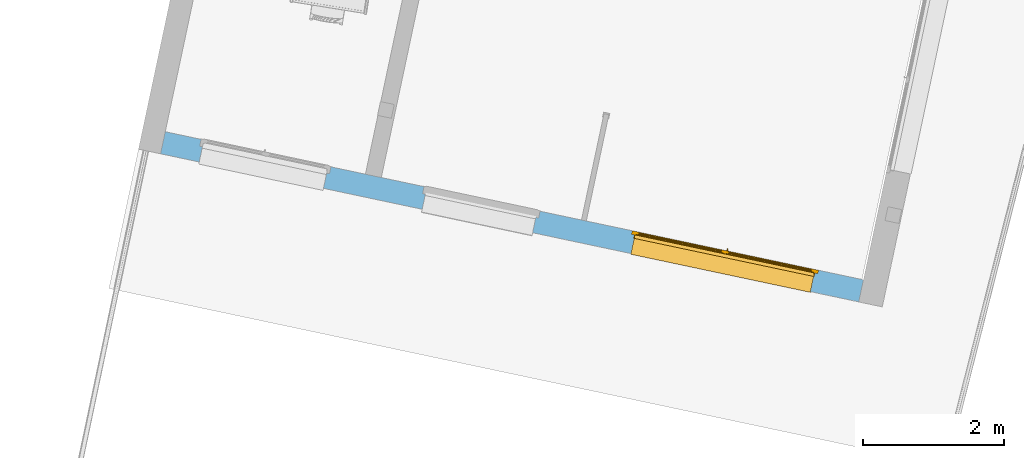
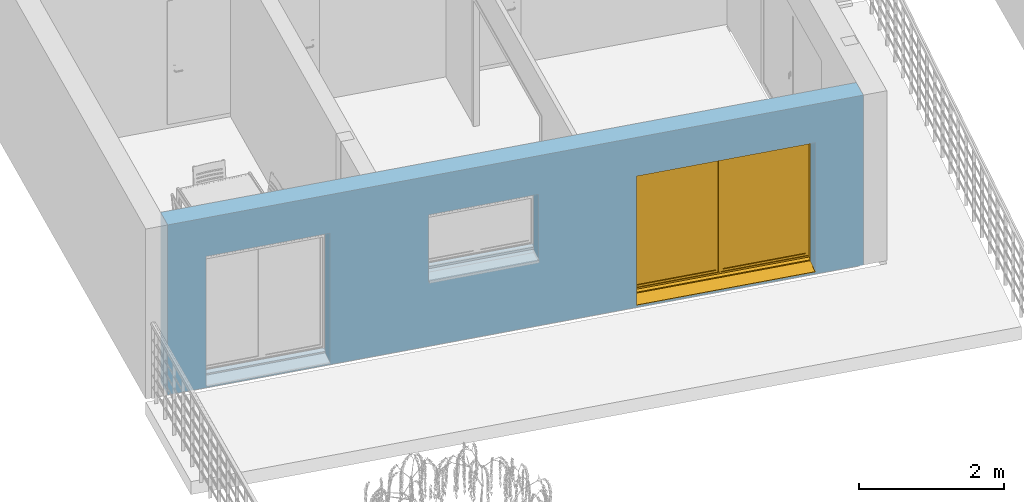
"""IFC2X3 building model written with IfcOpenShell, lengths in metres."""

import ifcopenshell
import ifcopenshell.guid

model = None  # the IFC model being written
_history = None  # IfcOwnerHistory: only IFC2X3 demands one
_inside = {}  # id of a spatial element -> (the spatial element, [elements in it])
_under = {}  # id of a project, library or spatial element -> (it, [spatial elements below it])
_declared = {}  # id of a project -> (the project, [libraries it declares])
_typed = {}  # id of a type object -> (the type object, [elements of that type])
_made_of = {}  # id of a material, layer set ... -> (it, [elements and type objects made of it])


def new_model(schema):
    """Start an empty IFC model of exactly this schema.

    Asked for "IFC4X3", IfcOpenShell would pick the latest addendum, in which some entities
    have other attributes; the version numbers below select the first issue.
    IFC2X3 requires an IfcOwnerHistory on every rooted entity: one is made here for all.
    """
    global model, _history
    if schema == "IFC4X3":
        model = ifcopenshell.file(schema_version=(4, 3, 0, 0))
    else:
        model = ifcopenshell.file(schema=schema)
    _inside.clear()
    _under.clear()
    _declared.clear()
    _typed.clear()
    _made_of.clear()
    _history = None
    if model.schema == "IFC2X3":
        org = make("IfcOrganization", Name="unknown")
        user = make(
            "IfcPersonAndOrganization",
            ThePerson=make("IfcPerson", FamilyName="unknown"),
            TheOrganization=org,
        )
        app = make(
            "IfcApplication",
            ApplicationDeveloper=org,
            Version="unknown",
            ApplicationFullName="unknown",
            ApplicationIdentifier="unknown",
        )
        _history = make(
            "IfcOwnerHistory",
            OwningUser=user,
            OwningApplication=app,
            ChangeAction="ADDED",
            CreationDate=0,
        )
    return model


def make(cls, **values):
    """One entity of the class cls with the attributes given. An attribute that is None is left unset."""
    return model.create_entity(
        cls, **{name: value for name, value in values.items() if value is not None}
    )


def entity(cls, *values):
    """Any entity or typed value of the class cls, its attributes in the order of the schema. None: left unset."""
    e = model.create_entity(cls)
    for i, value in enumerate(values):
        if value is not None:
            e[i] = value
    return e


def rooted(cls, **values):
    """An entity with a GlobalId (a new one), such as an element, a storey or a relation."""
    return make(cls, GlobalId=ifcopenshell.guid.new(), OwnerHistory=_history, **values)


def si_unit(unit_type, name, prefix=None):
    """IfcSIUnit, for example si_unit("LENGTHUNIT", "METRE", prefix="MILLI")."""
    return make("IfcSIUnit", UnitType=unit_type, Prefix=prefix, Name=name)


def converted_unit(unit_type, name, factor, base, dimensions=None, offset=None):
    """IfcConversionBasedUnit, such as the inch: factor (a typed value) times the base unit."""
    return make(
        "IfcConversionBasedUnit"
        if offset is None
        else "IfcConversionBasedUnitWithOffset",
        ConversionOffset=offset,
        Dimensions=None
        if dimensions is None
        else entity("IfcDimensionalExponents", *dimensions),
        UnitType=unit_type,
        Name=name,
        ConversionFactor=make(
            "IfcMeasureWithUnit", ValueComponent=factor, UnitComponent=base
        ),
    )


def derived_unit(unit_type, elements):
    """IfcDerivedUnit: a product of units, each with its exponent."""
    return make(
        "IfcDerivedUnit",
        Elements=[
            make("IfcDerivedUnitElement", Unit=unit, Exponent=power)
            for unit, power in elements
        ],
        UnitType=unit_type,
    )


def assignment(units):
    """IfcUnitAssignment: the units of a project."""
    return None if units is None else make("IfcUnitAssignment", Units=units)


def point(xyz):
    """IfcCartesianPoint."""
    return None if xyz is None else make("IfcCartesianPoint", Coordinates=xyz)


def direction(xyz):
    """IfcDirection."""
    return None if xyz is None else make("IfcDirection", DirectionRatios=xyz)


def frame(location, z_axis=None, x_axis=None):
    """IfcAxis2Placement3D, a coordinate frame: its origin and axes. An axis left out is left unset."""
    return make(
        "IfcAxis2Placement3D",
        Location=point(location),
        Axis=direction(z_axis),
        RefDirection=direction(x_axis),
    )


def frame_2d(location, x_axis=None):
    """IfcAxis2Placement2D, a coordinate frame in the plane: its origin and x axis."""
    return make(
        "IfcAxis2Placement2D", Location=point(location), RefDirection=direction(x_axis)
    )


def origin():
    """The frame at (0, 0, 0) with its axes left unset."""
    return frame((0.0, 0.0, 0.0))


def place(relative_to, where):
    """IfcLocalPlacement: puts the frame where relative to a parent placement (None: the world)."""
    return make(
        "IfcLocalPlacement", PlacementRelTo=relative_to, RelativePlacement=where
    )


def context(
    kind, dimensions, precision=None, world=None, true_north=None, identifier=None
):
    """IfcGeometricRepresentationContext, for example the 3D "Model" context."""
    return make(
        "IfcGeometricRepresentationContext",
        ContextIdentifier=identifier,
        ContextType=kind,
        CoordinateSpaceDimension=dimensions,
        Precision=precision,
        WorldCoordinateSystem=world,
        TrueNorth=true_north,
    )


def subcontext(parent, identifier, kind, view, scale=None):
    """IfcGeometricRepresentationSubContext, for example "Body" below "Model"."""
    return make(
        "IfcGeometricRepresentationSubContext",
        ContextIdentifier=identifier,
        ContextType=kind,
        ParentContext=parent,
        TargetScale=scale,
        TargetView=view,
    )


def project(units=None, contexts=None):
    """IfcProject with its units and contexts."""
    return rooted(
        "IfcProject",
        Name="project",
        RepresentationContexts=contexts,
        UnitsInContext=assignment(units),
    )


def spatial(cls, under=None, at=None, **own):
    """A site, building, storey or space (cls), placed at a placement, below another one or the project."""
    s = rooted(cls, ObjectPlacement=at, **own)
    if under is not None:
        _under.setdefault(under.id(), (under, []))[1].append(s)
    return s


def profile(cls, at=None, kind="AREA", **sizes):
    """A parametric profile (cls). Its sizes go by their IFC names, for example OverallWidth=200.0."""
    return make(cls, ProfileType=kind, Position=at, **sizes)


def rectangle(**sizes):
    """IfcRectangleProfileDef."""
    return profile("IfcRectangleProfileDef", **sizes)


def extrude(swept, where, along, depth):
    """IfcExtrudedAreaSolid: the profile swept, set in the frame where, extruded along a direction by depth."""
    return make(
        "IfcExtrudedAreaSolid",
        SweptArea=swept,
        Position=where,
        ExtrudedDirection=direction(along),
        Depth=depth,
    )


def faces_of(points, faces, orient=None, outer=None):
    """IfcFace entities. A face is a list of loops; a loop is a list of indices into points, from 0.

    orient and outer hold one flag for each loop. By default every Orientation is true, the
    first loop of a face is its IfcFaceOuterBound and the others are IfcFaceBound.
    """
    made = []
    for i, loops in enumerate(faces):
        bounds = []
        for j, loop in enumerate(loops):
            is_outer = j == 0 if outer is None else outer[i][j]
            bounds.append(
                make(
                    "IfcFaceOuterBound" if is_outer else "IfcFaceBound",
                    Bound=make("IfcPolyLoop", Polygon=[points[k] for k in loop]),
                    Orientation=True if orient is None else orient[i][j],
                )
            )
        made.append(make("IfcFace", Bounds=bounds))
    return made


def faceted_brep(points, faces, orient=None, outer=None, voids=None):
    """IfcFacetedBrep: a solid bounded by flat faces; with voids (closed shells), ...WithVoids."""
    shared = [point(p) for p in points]
    hull = make("IfcClosedShell", CfsFaces=faces_of(shared, faces, orient, outer))
    if voids is None:
        return make("IfcFacetedBrep", Outer=hull)
    return make(
        "IfcFacetedBrepWithVoids",
        Outer=hull,
        Voids=[
            make(cls, CfsFaces=faces_of(shared, fs, o, b)) for cls, fs, o, b in voids
        ],
    )


def shape(context_of_items, identifier, shape_type, items):
    """IfcShapeRepresentation: the items that make up one representation, for example the "Body"."""
    return make(
        "IfcShapeRepresentation",
        ContextOfItems=context_of_items,
        RepresentationIdentifier=identifier,
        RepresentationType=shape_type,
        Items=items,
    )


def source(mapping_origin, context_of_items, identifier, shape_type, items):
    """IfcRepresentationMap: a shape defined once, which mapped items show again and again."""
    return make(
        "IfcRepresentationMap",
        MappingOrigin=mapping_origin,
        MappedRepresentation=shape(context_of_items, identifier, shape_type, items),
    )


def transform(
    local_origin,
    x_axis=None,
    y_axis=None,
    z_axis=None,
    scale=None,
    scale2=None,
    scale3=None,
    uniform=True,
):
    """IfcCartesianTransformationOperator3D, or its non-uniform kind. x_axis, y_axis, z_axis: its Axis1, 2, 3."""
    if uniform:
        return make(
            "IfcCartesianTransformationOperator3D",
            Axis1=direction(x_axis),
            Axis2=direction(y_axis),
            LocalOrigin=point(local_origin),
            Scale=scale,
            Axis3=direction(z_axis),
        )
    return make(
        "IfcCartesianTransformationOperator3DnonUniform",
        Axis1=direction(x_axis),
        Axis2=direction(y_axis),
        LocalOrigin=point(local_origin),
        Scale=scale,
        Axis3=direction(z_axis),
        Scale2=scale2,
        Scale3=scale3,
    )


def mapped(mapping_source, mapping_target):
    """IfcMappedItem: shows the shape of a source again, moved by a transform."""
    return make(
        "IfcMappedItem", MappingSource=mapping_source, MappingTarget=mapping_target
    )


def material(Name=None, Category=None):
    """IfcMaterial."""
    return make("IfcMaterial", Name=Name, Category=Category)


def material_list(materials):
    """IfcMaterialList."""
    return make("IfcMaterialList", Materials=materials)


def layer(
    of_material, thickness, ventilated=None, Name=None, Category=None, Priority=None
):
    """IfcMaterialLayer: one layer of a wall or slab, of a material (None: an air gap)."""
    return make(
        "IfcMaterialLayer",
        Material=of_material,
        LayerThickness=thickness,
        IsVentilated=ventilated,
        Name=Name,
        Category=Category,
        Priority=Priority,
    )


def layer_set(layers, Name=None):
    """IfcMaterialLayerSet."""
    return make("IfcMaterialLayerSet", MaterialLayers=layers, LayerSetName=Name)


def layer_usage(for_layer_set, set_direction, sense, offset, extent=None):
    """IfcMaterialLayerSetUsage: how a layer set lies in its element."""
    return make(
        "IfcMaterialLayerSetUsage",
        ForLayerSet=for_layer_set,
        LayerSetDirection=set_direction,
        DirectionSense=sense,
        OffsetFromReferenceLine=offset,
        ReferenceExtent=extent,
    )


def made_of(thing, what):
    """Note that an element or type object is made of a material, layer set ...; save() writes the relation."""
    if what is not None:
        _made_of.setdefault(what.id(), (what, []))[1].append(thing)
    return thing


def type_object(cls, material=None, **own):
    """A type object (cls), such as IfcWallType, which elements share."""
    return made_of(rooted(cls, **own), material)


def type_shapes(of_type, sources):
    """Give a type object the sources (RepresentationMaps) that its elements show as mapped items."""
    of_type.RepresentationMaps = sources


def element(
    cls,
    number,
    at=None,
    inside=None,
    cuts=None,
    type_object=None,
    material=None,
    context=None,
    identifier="Body",
    shape_type=None,
    held_by="IfcProductDefinitionShape",
    body=None,
    shapes=None,
    **own,
):
    """One element of the class cls, such as IfcWall. Its Tag is "e" and its number.

    at: its placement. inside: the storey or other place that contains it. cuts: it is an
    opening in that element (IfcRelVoidsElement). A single representation is given by context,
    identifier, shape_type and body (its items); several are given by shapes. held_by: the class
    of the entity that holds the representations. save() writes the other relations.
    """
    e = rooted(cls, Tag="e%d" % number, ObjectPlacement=at, **own)
    if body is not None:
        shapes = [shape(context, identifier, shape_type, body)]
    if shapes is not None:
        e.Representation = make(held_by, Representations=shapes)
    if inside is not None:
        _inside.setdefault(inside.id(), (inside, []))[1].append(e)
    if cuts is not None:
        rooted(
            "IfcRelVoidsElement", RelatingBuildingElement=cuts, RelatedOpeningElement=e
        )
    if type_object is not None:
        _typed.setdefault(type_object.id(), (type_object, []))[1].append(e)
    return made_of(e, material)


def fill(opening, filler):
    """IfcRelFillsElement: the door or window that sits in an opening."""
    return rooted(
        "IfcRelFillsElement",
        RelatingOpeningElement=opening,
        RelatedBuildingElement=filler,
    )


def aggregate(whole, parts):
    """IfcRelAggregates: a whole, such as a stair, and the parts it consists of."""
    return rooted("IfcRelAggregates", RelatingObject=whole, RelatedObjects=parts)


def save(model, path):
    """Write the relations noted so far, then the file.

    IfcRelAggregates (storeys below a building ...), IfcRelContainedInSpatialStructure (elements
    in a storey), IfcRelDefinesByType, IfcRelAssociatesMaterial and IfcRelDeclares: one each for
    every whole, place, type object, material and project.
    """
    for whole, parts in _under.values():
        aggregate(whole, parts)
    for where, things in _inside.values():
        rooted(
            "IfcRelContainedInSpatialStructure",
            RelatedElements=things,
            RelatingStructure=where,
        )
    for kind, things in _typed.values():
        rooted("IfcRelDefinesByType", RelatedObjects=things, RelatingType=kind)
    for what, things in _made_of.values():
        rooted("IfcRelAssociatesMaterial", RelatedObjects=things, RelatingMaterial=what)
    for by, libraries in _declared.values():
        rooted("IfcRelDeclares", RelatingContext=by, RelatedDefinitions=libraries)
    model.write(path)


model = new_model("IFC2X3")

# Units and contexts
model_context = context("Model", 3, precision=1e-05, world=origin(), true_north=direction((6.12303176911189e-17, 1.0)))
body_context = subcontext(model_context, "Body", "Model", "MODEL_VIEW")
ifc_project = project(units=[si_unit("LENGTHUNIT", "METRE"), si_unit("AREAUNIT", "SQUARE_METRE"), si_unit("VOLUMEUNIT", "CUBIC_METRE"), converted_unit("PLANEANGLEUNIT", "DEGREE", entity("IfcRatioMeasure", 0.0174532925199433), si_unit("PLANEANGLEUNIT", "RADIAN"), dimensions=[0, 0, 0, 0, 0, 0, 0]), si_unit("MASSUNIT", "GRAM", prefix="KILO"), derived_unit("MASSDENSITYUNIT", [(si_unit("MASSUNIT", "GRAM", prefix="KILO"), 1), (si_unit("LENGTHUNIT", "METRE"), -3)]), si_unit("TIMEUNIT", "SECOND"), si_unit("FREQUENCYUNIT", "HERTZ"), si_unit("THERMODYNAMICTEMPERATUREUNIT", "DEGREE_CELSIUS"), derived_unit("THERMALTRANSMITTANCEUNIT", [(si_unit("MASSUNIT", "GRAM", prefix="KILO"), 1), (si_unit("THERMODYNAMICTEMPERATUREUNIT", "KELVIN"), -1), (si_unit("TIMEUNIT", "SECOND"), -3)]), derived_unit("VOLUMETRICFLOWRATEUNIT", [(si_unit("LENGTHUNIT", "METRE"), 3), (si_unit("TIMEUNIT", "SECOND"), -1)]), si_unit("ELECTRICCURRENTUNIT", "AMPERE"), si_unit("ELECTRICVOLTAGEUNIT", "VOLT"), si_unit("POWERUNIT", "WATT"), si_unit("FORCEUNIT", "NEWTON", prefix="KILO"), si_unit("ILLUMINANCEUNIT", "LUX"), si_unit("LUMINOUSFLUXUNIT", "LUMEN"), si_unit("LUMINOUSINTENSITYUNIT", "CANDELA"), derived_unit("USERDEFINED", [(si_unit("MASSUNIT", "GRAM", prefix="KILO"), -1), (si_unit("LENGTHUNIT", "METRE"), -2), (si_unit("TIMEUNIT", "SECOND"), 3), (si_unit("LUMINOUSFLUXUNIT", "LUMEN"), 1)]), derived_unit("LINEARVELOCITYUNIT", [(si_unit("LENGTHUNIT", "METRE"), 1), (si_unit("TIMEUNIT", "SECOND"), -1)]), si_unit("PRESSUREUNIT", "PASCAL"), derived_unit("USERDEFINED", [(si_unit("LENGTHUNIT", "METRE"), -2), (si_unit("MASSUNIT", "GRAM", prefix="KILO"), 1), (si_unit("TIMEUNIT", "SECOND"), -2)])], contexts=[model_context])

# Site, building, storey
site_placement = place(None, origin())
site = spatial("IfcSite", under=ifc_project, at=site_placement, Name="Default", CompositionType="ELEMENT")
building_placement = place(site_placement, origin())
building = spatial("IfcBuilding", under=site, at=building_placement, CompositionType="ELEMENT")
storey_1_placement = place(building_placement, frame((0.0, 0.0, -0.0686871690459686)))
storey_1 = spatial("IfcBuildingStorey", under=building, at=storey_1_placement, Name="RDC", CompositionType="ELEMENT", Elevation=-0.0686871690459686)

# Wall, openings
ifc_material_1 = material(Name="Enduit blanc cassé2")
ifc_layer_1 = layer(ifc_material_1, 0.02)
ifc_material_2 = material(Name="Parpaing")
ifc_layer_2 = layer(ifc_material_2, 0.2)
ifc_material_3 = material(Name="Isolant")
ifc_layer_3 = layer(ifc_material_3, 0.1)
ifc_layer_set = layer_set([ifc_layer_1, ifc_layer_2, ifc_layer_3], Name="Mur de base:Ext. Parpaing 20 + Isolant 10 enduit blanc cassé")
ifc_layer_usage = layer_usage(ifc_layer_set, "AXIS2", "POSITIVE", -0.16)
wall_type = type_object("IfcWallType", Name="Mur de base:Ext. Parpaing 20 + Isolant 10 enduit blanc cassé", PredefinedType="STANDARD", material=ifc_layer_set)
wall_placement = place(storey_1_placement, frame((-22.068308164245, 75.1460421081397, 0.0), z_axis=(0.0, 0.0, 1.0), x_axis=(0.978238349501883, -0.207484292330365, 0.0)))
wall = element("IfcWallStandardCase", 1, at=wall_placement, inside=storey_1, type_object=wall_type, material=ifc_layer_usage, Name="Mur de base:Ext. Parpaing 20 + Isolant 10 enduit blanc cassé", ObjectType="Mur de base:Ext. Parpaing 20 + Isolant 10 enduit blanc cassé", context=body_context, shape_type="SweptSolid", body=[
    extrude(rectangle(XDim=10.1152120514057, YDim=0.319999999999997, at=frame_2d((5.05760602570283, -1.1518563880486e-15), x_axis=(-1.0, 0.0))), origin(), (0.0, 0.0, 1.0), 2.86868716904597),
])
opening_1_placement = place(wall_placement, frame((0.637489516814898, -0.865344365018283, 0.0348073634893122), z_axis=(0.0, 0.0, 1.0), x_axis=(0.978238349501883, 0.207484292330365, 0.0)))
element("IfcOpeningElement", 2, at=opening_1_placement, cuts=wall, Name="Mur de base:Ext. Parpaing 20 + Isolant 10 enduit blanc cassé", ObjectType="Opening", context=body_context, shape_type="Brep", body=[
    faceted_brep([(0.20748429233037, 1.35171007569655, 2.18387980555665), (1.96831332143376, 0.978238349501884, 2.18387980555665), (1.96831332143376, 0.978238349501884, 0.0338798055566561), (0.20748429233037, 1.35171007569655, 0.0338798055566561), (0.0, 0.373471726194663, 2.18387980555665), (0.0, 0.373471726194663, 0.0338798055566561), (1.76082902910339, 0.0, 0.0338798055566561), (1.76082902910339, 0.0, 2.18387980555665), (0.139636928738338, 1.03182613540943, 2.18387980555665), (1.90046595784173, 0.658354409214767, 2.18387980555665), (1.90046595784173, 0.658354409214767, 0.0338798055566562), (1.9395954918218, 0.650055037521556, 0.0338798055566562), (1.91614976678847, 0.53951410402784, 0.0338798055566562), (1.87702023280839, 0.54781347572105, 0.0338798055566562), (1.87743520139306, 0.549769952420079, 0.0338798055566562), (0.116606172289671, 0.923241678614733, 0.0338798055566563), (0.116191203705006, 0.921285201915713, 0.0338798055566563), (0.0770616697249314, 0.929584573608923, 0.0338798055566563), (0.100507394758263, 1.04012550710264, 0.0338798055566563), (0.139636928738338, 1.03182613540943, 0.0338798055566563), (0.100507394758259, 1.04012550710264, 2.22387980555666), (1.9395954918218, 0.650055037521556, 2.22387980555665), (1.91614976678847, 0.53951410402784, 2.22387980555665), (1.92593215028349, 0.537439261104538, 2.22387980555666), (1.92593215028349, 0.537439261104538, 2.40387980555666), (0.0672792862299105, 0.931659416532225, 2.40387980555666), (0.0672792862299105, 0.931659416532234, 2.22387980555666), (0.0770616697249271, 0.929584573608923, 2.22387980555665), (0.116191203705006, 0.921285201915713, 2.18387980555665), (1.87702023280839, 0.54781347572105, 2.18387980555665), (1.95352756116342, 0.667544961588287, 2.40387980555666), (1.95352756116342, 0.667544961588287, 2.22387980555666), (0.0948746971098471, 1.06176511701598, 2.40387980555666), (0.0948746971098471, 1.06176511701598, 2.22387980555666), (1.87743520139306, 0.549769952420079, 0.0220471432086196), (0.116606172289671, 0.923241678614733, 0.0220471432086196), (1.8251491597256, 0.303253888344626, 0.0338798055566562), (0.0643201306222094, 0.67672561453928, 0.0338798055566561), (0.0643201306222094, 0.67672561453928, 0.0), (1.8251491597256, 0.303253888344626, 0.0)], [[[0, 1, 2, 3]], [[4, 5, 6, 7]], [[0, 8, 9, 1]], [[1, 9, 10, 2]], [[2, 10, 11, 12, 13, 14, 15, 16, 17, 18, 19, 3]], [[3, 19, 8, 0]], [[10, 9, 8, 19, 18, 20, 21, 11]], [[11, 21, 22, 12]], [[12, 22, 23, 24, 25, 26, 27, 17, 16, 28, 29, 13]], [[18, 17, 27, 20]], [[30, 24, 23, 31]], [[32, 33, 26, 25]], [[30, 32, 25, 24]], [[23, 22, 21, 20, 27, 26, 33, 31]], [[31, 33, 32, 30]], [[34, 35, 15, 14]], [[36, 37, 38, 39]], [[39, 38, 35, 34]], [[4, 28, 16, 15, 35, 38, 37, 5]], [[5, 37, 36, 6]], [[6, 36, 39, 34, 14, 13, 29, 7]], [[7, 29, 28, 4]]]),
])
opening_2_placement = place(wall_placement, frame((3.85887957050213, -0.824750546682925, 1.08868716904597), z_axis=(0.0, 0.0, 1.0), x_axis=(0.978238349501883, 0.207484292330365, 0.0)))
element("IfcOpeningElement", 3, at=opening_2_placement, cuts=wall, Name="Mur de base:Ext. Parpaing 20 + Isolant 10 enduit blanc cassé", ObjectType="Opening", context=body_context, shape_type="Brep", body=[
    faceted_brep([(0.207484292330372, 1.31021321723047, 1.13), (1.77266565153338, 0.978238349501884, 1.13), (1.77266565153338, 0.978238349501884, 0.0799999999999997), (0.207484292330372, 1.31021321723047, 0.0799999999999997), (0.0, 0.331974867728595, 1.13), (0.0, 0.331974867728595, 0.0799999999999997), (1.56518135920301, 0.0, 0.0799999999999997), (1.56518135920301, 0.0, 1.13), (0.13963692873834, 0.990329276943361, 1.13), (1.70481828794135, 0.658354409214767, 1.13), (1.70481828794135, 0.658354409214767, 0.0799999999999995), (1.74394782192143, 0.650055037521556, 0.0799999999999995), (1.72050209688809, 0.53951410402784, 0.0799999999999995), (1.68137256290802, 0.54781347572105, 0.0799999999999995), (1.68863451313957, 0.582051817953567, 0.0799999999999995), (0.123453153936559, 0.914026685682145, 0.0799999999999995), (0.116191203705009, 0.879788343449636, 0.0799999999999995), (0.0770616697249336, 0.888087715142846, 0.0799999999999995), (0.100507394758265, 0.998628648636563, 0.0799999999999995), (0.13963692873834, 0.990329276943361, 0.0799999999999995), (0.100507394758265, 0.998628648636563, 1.17), (1.74394782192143, 0.650055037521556, 1.16999999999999), (1.72050209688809, 0.53951410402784, 1.16999999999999), (1.73028448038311, 0.537439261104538, 1.17), (1.73028448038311, 0.537439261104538, 1.35), (0.0672792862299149, 0.890162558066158, 1.35), (0.0672792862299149, 0.890162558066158, 1.17), (0.0770616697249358, 0.888087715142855, 1.16999999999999), (0.116191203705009, 0.879788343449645, 1.13), (1.68137256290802, 0.54781347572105, 1.13), (1.75787989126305, 0.667544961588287, 1.35), (1.75787989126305, 0.667544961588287, 1.17), (0.0948746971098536, 1.02026825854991, 1.35), (0.0948746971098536, 1.02026825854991, 1.17), (1.68137256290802, 0.54781347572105, 0.0), (0.116191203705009, 0.879788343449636, 0.0), (0.123453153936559, 0.914026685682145, 0.0349999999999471), (1.68863451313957, 0.582051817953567, 0.0349999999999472), (1.62638922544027, 0.288580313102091, 0.0799999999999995), (0.0612078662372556, 0.620555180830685, 0.0799999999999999), (0.0612078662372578, 0.620555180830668, 0.0), (1.62638922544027, 0.288580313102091, 0.0)], [[[0, 1, 2, 3]], [[4, 5, 6, 7]], [[0, 8, 9, 1]], [[1, 9, 10, 2]], [[2, 10, 11, 12, 13, 14, 15, 16, 17, 18, 19, 3]], [[3, 19, 8, 0]], [[10, 9, 8, 19, 18, 20, 21, 11]], [[11, 21, 22, 12]], [[12, 22, 23, 24, 25, 26, 27, 17, 16, 28, 29, 13]], [[18, 17, 27, 20]], [[30, 24, 23, 31]], [[32, 33, 26, 25]], [[30, 32, 25, 24]], [[23, 22, 21, 20, 27, 26, 33, 31]], [[31, 33, 32, 30]], [[34, 35, 36, 37]], [[37, 36, 15, 14]], [[38, 39, 40, 41]], [[41, 40, 35, 34]], [[4, 28, 16, 15, 36, 35, 40, 39, 5]], [[5, 39, 38, 6]], [[6, 38, 41, 34, 37, 14, 13, 29, 7]], [[7, 29, 28, 4]]]),
])
opening_3_placement = place(wall_placement, frame((6.92714135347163, -1.02771963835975, 0.0336871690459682), z_axis=(0.0, 0.0, 1.0), x_axis=(0.978238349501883, 0.207484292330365, 0.0)))
opening_3 = element("IfcOpeningElement", 4, at=opening_3_placement, cuts=wall, Name="Mur de base:Ext. Parpaing 20 + Isolant 10 enduit blanc cassé", ObjectType="Opening", context=body_context, shape_type="Brep", body=[
    faceted_brep([(2.75090400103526, 0.978238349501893, 2.185), (0.207484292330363, 1.51769750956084, 2.185), (0.13693963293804, 1.18509647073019, 2.185), (2.68035934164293, 0.645637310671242, 2.185), (0.0880277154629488, 1.19547068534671, 0.0350000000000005), (0.0776535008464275, 1.14655876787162, 0.0350000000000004), (0.0776535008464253, 1.14655876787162, 2.235), (0.0880277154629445, 1.19547068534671, 2.235), (0.116783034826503, 1.1382593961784, 0.0350000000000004), (0.116783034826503, 1.1382593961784, 2.195), (2.67976751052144, 0.594650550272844, 2.195), (2.67976751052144, 0.594650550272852, 0.0350000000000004), (2.71889704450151, 0.586351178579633, 0.0350000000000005), (2.71889704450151, 0.586351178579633, 2.235), (0.120340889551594, 1.10683740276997, 0.0350000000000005), (0.0512480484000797, 0.781081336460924, 0.0), (0.0, 0.539459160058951, 0.0), (0.0, 0.539459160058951, 2.185), (0.116191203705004, 1.08727263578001, 2.185), (0.116191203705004, 1.08727263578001, 0.0350000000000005), (2.75090400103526, 0.978238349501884, 0.0350000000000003), (2.68035934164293, 0.645637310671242, 0.0350000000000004), (0.207484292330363, 1.51769750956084, 0.0350000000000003), (2.72927125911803, 0.635263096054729, 0.0350000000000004), (2.66939329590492, 0.545738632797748, 0.0350000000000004), (2.6596109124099, 0.54781347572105, 0.0350000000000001), (2.66376059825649, 0.567378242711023, 0.0350000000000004), (0.106408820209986, 1.0893474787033, 0.0350000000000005), (0.13693963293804, 1.18509647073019, 0.0350000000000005), (2.54341970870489, 0.0, 0.0), (2.54341970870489, 0.0, 2.185), (2.59466775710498, 0.241622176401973, 0.0), (0.106408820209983, 1.0893474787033, 2.195), (2.6596109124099, 0.54781347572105, 2.185), (2.66939329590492, 0.545738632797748, 2.195), (2.72927125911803, 0.635263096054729, 2.235)], [[[0, 1, 2, 3]], [[4, 5, 6, 7]], [[5, 8, 9, 10, 11, 12, 13, 6]], [[14, 15, 16, 17, 18, 19]], [[20, 0, 3, 21]], [[22, 20, 21, 23, 12, 11, 24, 25, 26, 14, 19, 27, 8, 5, 4, 28]], [[22, 1, 0, 20]], [[17, 16, 29, 30]], [[16, 15, 31, 29]], [[15, 14, 26, 31]], [[8, 27, 32, 9]], [[27, 19, 18, 33, 25, 24, 34, 32]], [[28, 4, 7, 35, 23, 21, 3, 2]], [[7, 6, 13, 35]], [[10, 9, 32, 34]], [[13, 12, 23, 35]], [[11, 10, 34, 24]], [[30, 29, 31, 26, 25, 33]], [[1, 22, 28, 2]], [[17, 30, 33, 18]]]),
])

# Storey
storey_2_placement = place(building_placement, origin())
storey_2 = spatial("IfcBuildingStorey", under=building, at=storey_2_placement, Name="Plan des fondations  Maisons 1 et 2", CompositionType="ELEMENT", Elevation=0.0)

# Window
ifc_material_4 = material(Name="Fenêtre - Poignée")
ifc_material_5 = material(Name="Fenêtre - Appui")
ifc_material_6 = material(Name="PVC Blanc")
ifc_material_7 = material(Name="Fenêtre - Vitrage")
ifc_material_8 = material(Name="Fenêtre - Cadre")
ifc_material_list_1 = material_list([ifc_material_4, ifc_material_5, ifc_material_6, ifc_material_7, ifc_material_8])
ifc_material_list_2 = material_list([ifc_material_4, ifc_material_5, ifc_material_6, ifc_material_7, ifc_material_8])
window_style = type_object("IfcWindowStyle", Name="2.60 X 2.15", ConstructionType="NOTDEFINED", OperationType="DOUBLE_PANEL_VERTICAL", ParameterTakesPrecedence=False, Sizeable=False, material=ifc_material_list_2)
shared_shape = source(origin(), body_context, "Body", "Brep", [
    faceted_brep([(1.31935399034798, 0.653999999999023, 1.12203392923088), (1.33064600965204, 0.653999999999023, 1.12203392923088), (1.33203392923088, 0.653999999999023, 1.12064600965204), (1.33203392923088, 0.653999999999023, 1.10933230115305), (1.33066769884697, 0.653999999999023, 1.10796607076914), (1.31933230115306, 0.653999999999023, 1.10796607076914), (1.31796607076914, 0.653999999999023, 1.10933230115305), (1.31796607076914, 0.653999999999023, 1.12064600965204), (1.31796607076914, 0.641661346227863, 1.12064600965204), (1.31935399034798, 0.641086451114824, 1.12203392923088), (1.31796607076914, 0.646347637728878, 1.10933230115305), (1.31796607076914, 0.639667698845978, 1.10265236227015), (1.31796607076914, 0.639667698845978, 1.02000000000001), (1.31796607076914, 0.628353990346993, 1.02000000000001), (1.31796607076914, 0.628353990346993, 1.10733865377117), (1.31933230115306, 0.646913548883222, 1.10796607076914), (1.33066769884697, 0.646913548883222, 1.10796607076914), (1.33203392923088, 0.646347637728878, 1.10933230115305), (1.33203392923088, 0.641661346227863, 1.12064600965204), (1.33203392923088, 0.628353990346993, 1.10733865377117), (1.33203392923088, 0.628353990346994, 1.02000000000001), (1.33203392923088, 0.639667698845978, 1.02000000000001), (1.33203392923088, 0.639667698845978, 1.10265236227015), (1.33064600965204, 0.641086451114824, 1.12203392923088), (1.31935399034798, 0.626966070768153, 1.10791354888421), (1.31933230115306, 0.641033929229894, 1.10208645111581), (1.33066769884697, 0.641033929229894, 1.10208645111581), (1.33064600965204, 0.626966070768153, 1.10791354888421), (1.31935399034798, 0.626966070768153, 1.02000000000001), (1.31933230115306, 0.641033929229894, 1.02000000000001), (1.33066769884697, 0.641033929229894, 1.02000000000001), (1.33064600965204, 0.626966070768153, 1.02000000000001)], [[[0, 1, 2, 3, 4, 5, 6, 7]], [[7, 8, 9, 0]], [[6, 10, 11, 12, 13, 14, 8, 7]], [[5, 15, 10, 6]], [[4, 16, 15, 5]], [[3, 17, 16, 4]], [[2, 18, 19, 20, 21, 22, 17, 3]], [[1, 23, 18, 2]], [[0, 9, 23, 1]], [[8, 14, 24, 9]], [[15, 25, 11, 10]], [[16, 26, 25, 15]], [[17, 22, 26, 16]], [[23, 27, 19, 18]], [[9, 24, 27, 23]], [[28, 13, 12, 29, 30, 21, 20, 31]], [[14, 13, 28, 24]], [[25, 29, 12, 11]], [[26, 30, 29, 25]], [[22, 21, 30, 26]], [[27, 31, 20, 19]], [[24, 28, 31, 27]]]),
    faceted_brep([(1.318, 0.654000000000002, 1.14), (1.31300000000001, 0.654000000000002, 1.135), (1.31300000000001, 0.654000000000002, 1.06499999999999), (1.318, 0.654000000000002, 1.06), (1.33200000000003, 0.654000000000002, 1.06), (1.33700000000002, 0.654000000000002, 1.06499999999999), (1.33700000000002, 0.654000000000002, 1.135), (1.33200000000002, 0.654000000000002, 1.14), (1.318, 0.660000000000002, 1.14), (1.33200000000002, 0.660000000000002, 1.14), (1.33700000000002, 0.660000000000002, 1.135), (1.33700000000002, 0.660000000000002, 1.06499999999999), (1.33200000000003, 0.660000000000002, 1.06), (1.318, 0.660000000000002, 1.06), (1.31300000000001, 0.660000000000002, 1.06499999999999), (1.31300000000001, 0.660000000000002, 1.135)], [[[0, 1, 2, 3, 4, 5, 6, 7]], [[8, 9, 10, 11, 12, 13, 14, 15]], [[7, 9, 8, 0]], [[6, 10, 9, 7]], [[5, 11, 10, 6]], [[4, 12, 11, 5]], [[3, 13, 12, 4]], [[2, 14, 13, 3]], [[1, 15, 14, 2]], [[0, 8, 15, 1]]]),
    faceted_brep([(0.0500000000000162, 0.990028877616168, 0.0139761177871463), (0.0500000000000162, 0.990028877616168, 0.00500000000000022), (0.0500000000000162, 0.985028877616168, 0.00500000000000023), (0.0500000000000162, 0.985028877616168, 0.00924642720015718), (0.0500000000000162, 0.740000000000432, 0.0349999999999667), (0.0500000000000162, 0.740000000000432, 0.0499999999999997), (0.0500000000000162, 0.745000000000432, 0.0499999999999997), (0.0500000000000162, 0.745000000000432, 0.0397296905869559), (2.65000000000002, 0.990028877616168, 0.0139761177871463), (2.65000000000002, 0.745000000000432, 0.0397296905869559), (2.65000000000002, 0.745000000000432, 0.0499999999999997), (2.65000000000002, 0.740000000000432, 0.0499999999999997), (2.65000000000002, 0.740000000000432, 0.0349999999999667), (2.65000000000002, 0.985028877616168, 0.00924642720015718), (2.65000000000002, 0.985028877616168, 0.00500000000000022), (2.65000000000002, 0.990028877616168, 0.00500000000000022)], [[[0, 1, 2, 3, 4, 5, 6, 7]], [[8, 9, 10, 11, 12, 13, 14, 15]], [[7, 9, 8, 0]], [[6, 10, 9, 7]], [[5, 11, 10, 6]], [[4, 12, 11, 5]], [[3, 13, 12, 4]], [[2, 14, 13, 3]], [[1, 15, 14, 2]], [[0, 8, 15, 1]]]),
    faceted_brep([(2.65000000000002, 0.98900145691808, 0.0180785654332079), (2.65000000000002, 0.986446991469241, 0.0193801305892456), (2.65000000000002, 0.745000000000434, 0.0447572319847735), (2.65000000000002, 0.745000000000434, 0.0397296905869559), (2.65000000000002, 0.99002887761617, 0.0139761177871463), (2.65000000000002, 0.99002887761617, 0.0154020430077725), (2.64500000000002, 0.986446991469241, 0.0193801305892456), (2.64500000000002, 0.98900145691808, 0.0180785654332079), (2.64500000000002, 0.99002887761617, 0.0154020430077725), (2.64500000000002, 0.99002887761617, 0.0139761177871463), (2.64500000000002, 0.745000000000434, 0.0397296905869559), (2.64500000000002, 0.745000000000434, 0.0447572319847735)], [[[0, 1, 2, 3, 4, 5]], [[6, 7, 8, 9, 10, 11]], [[9, 4, 3, 10]], [[10, 3, 2, 11]], [[11, 2, 1, 6]], [[0, 7, 6, 1]], [[5, 8, 7, 0]], [[8, 5, 4, 9]]]),
    faceted_brep([(0.0550000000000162, 0.989001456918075, 0.018078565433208), (0.0550000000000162, 0.986446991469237, 0.0193801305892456), (0.0550000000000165, 0.74500000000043, 0.0447572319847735), (0.0550000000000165, 0.74500000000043, 0.0397296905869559), (0.0550000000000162, 0.990028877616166, 0.0139761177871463), (0.0550000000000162, 0.990028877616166, 0.0154020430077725), (0.0500000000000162, 0.986446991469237, 0.0193801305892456), (0.0500000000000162, 0.989001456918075, 0.018078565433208), (0.0500000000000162, 0.990028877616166, 0.0154020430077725), (0.0500000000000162, 0.990028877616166, 0.0139761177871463), (0.0500000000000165, 0.74500000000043, 0.0397296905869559), (0.0500000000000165, 0.74500000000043, 0.0447572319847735)], [[[0, 1, 2, 3, 4, 5]], [[6, 7, 8, 9, 10, 11]], [[9, 4, 3, 10]], [[10, 3, 2, 11]], [[11, 2, 1, 6]], [[0, 7, 6, 1]], [[5, 8, 7, 0]], [[8, 5, 4, 9]]]),
    faceted_brep([(1.35000000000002, 0.700000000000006, 0.0850000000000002), (2.65000000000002, 0.70000000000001, 0.0850000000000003), (2.65000000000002, 0.660000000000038, 0.0850000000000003), (1.35000000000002, 0.660000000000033, 0.0850000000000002), (1.40000000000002, 0.660000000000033, 0.135), (2.60000000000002, 0.660000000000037, 0.135), (2.60000000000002, 0.70000000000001, 0.135), (1.40000000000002, 0.700000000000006, 0.135), (2.65000000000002, 0.70000000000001, 2.185), (2.65000000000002, 0.660000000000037, 2.185), (2.60000000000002, 0.660000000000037, 2.135), (2.60000000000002, 0.70000000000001, 2.135), (1.35000000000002, 0.700000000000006, 2.185), (1.35000000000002, 0.660000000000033, 2.185), (1.40000000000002, 0.660000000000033, 2.135), (1.40000000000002, 0.700000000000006, 2.135)], [[[0, 1, 2, 3]], [[4, 5, 6, 7]], [[1, 8, 9, 2]], [[5, 10, 11, 6]], [[8, 12, 13, 9]], [[10, 14, 15, 11]], [[12, 0, 3, 13]], [[1, 0, 12, 8], [7, 6, 11, 15]], [[14, 4, 7, 15]], [[3, 2, 9, 13], [5, 4, 14, 10]]]),
    faceted_brep([(2.60000000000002, 0.685999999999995, 2.135), (2.60000000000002, 0.685999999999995, 0.135), (1.40000000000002, 0.685999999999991, 0.135), (1.40000000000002, 0.685999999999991, 2.135), (2.60000000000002, 0.673999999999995, 2.135), (1.40000000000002, 0.673999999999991, 2.135), (1.40000000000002, 0.673999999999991, 0.135), (2.60000000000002, 0.673999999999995, 0.135)], [[[0, 1, 2, 3]], [[4, 5, 6, 7]], [[3, 5, 4, 0]], [[2, 6, 5, 3]], [[1, 7, 6, 2]], [[0, 4, 7, 1]]]),
    faceted_brep([(1.30000000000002, 0.68599999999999, 2.135), (1.30000000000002, 0.67399999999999, 2.135), (1.30000000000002, 0.67399999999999, 0.135000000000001), (1.30000000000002, 0.68599999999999, 0.135000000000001), (0.100000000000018, 0.685999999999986, 2.135), (0.100000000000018, 0.673999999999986, 2.135), (0.100000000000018, 0.685999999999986, 0.135000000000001), (0.100000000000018, 0.673999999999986, 0.135000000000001)], [[[0, 1, 2, 3]], [[4, 5, 1, 0]], [[6, 7, 5, 4]], [[3, 2, 7, 6]], [[2, 1, 5, 7]], [[3, 6, 4, 0]]]),
    faceted_brep([(1.30000000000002, 0.699999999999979, 0.135000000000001), (0.100000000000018, 0.699999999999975, 0.135000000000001), (0.100000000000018, 0.659999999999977, 0.135000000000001), (1.30000000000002, 0.659999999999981, 0.135000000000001), (1.35000000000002, 0.659999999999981, 0.0850000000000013), (0.0500000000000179, 0.659999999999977, 0.0850000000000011), (0.0500000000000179, 0.699999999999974, 0.0850000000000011), (1.35000000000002, 0.699999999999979, 0.0850000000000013), (0.100000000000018, 0.699999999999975, 2.135), (0.100000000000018, 0.659999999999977, 2.135), (0.0500000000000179, 0.659999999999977, 2.185), (0.0500000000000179, 0.699999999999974, 2.185), (1.30000000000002, 0.699999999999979, 2.135), (1.30000000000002, 0.659999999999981, 2.135), (1.35000000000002, 0.659999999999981, 2.185), (1.35000000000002, 0.699999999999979, 2.185)], [[[0, 1, 2, 3]], [[4, 5, 6, 7]], [[1, 8, 9, 2]], [[5, 10, 11, 6]], [[8, 12, 13, 9]], [[10, 14, 15, 11]], [[12, 0, 3, 13]], [[1, 0, 12, 8], [7, 6, 11, 15]], [[14, 4, 7, 15]], [[3, 2, 9, 13], [5, 4, 14, 10]]], outer=[[True], [True], [True], [True], [True], [True], [True], [False, True], [True], [False, True]]),
    faceted_brep([(2.70000000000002, 0.660000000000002, 0.0350000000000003), (0.0, 0.660000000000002, 0.0350000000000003), (0.0, 0.710000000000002, 0.0350000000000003), (0.0500000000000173, 0.710000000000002, 0.035), (0.0500000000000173, 0.739999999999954, 0.0350000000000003), (2.65000000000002, 0.739999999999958, 0.0350000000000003), (2.65000000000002, 0.710000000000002, 0.0350000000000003), (2.70000000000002, 0.710000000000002, 0.0350000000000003), (2.65000000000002, 0.710000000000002, 0.0743761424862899), (0.0500000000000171, 0.710000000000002, 0.0743761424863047), (0.0, 0.710000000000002, 2.235), (2.70000000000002, 0.710000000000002, 2.235), (2.63500000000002, 0.710000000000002, 2.17), (0.0650000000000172, 0.710000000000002, 2.17), (0.0650000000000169, 0.710000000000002, 0.0999999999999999), (2.63500000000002, 0.710000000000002, 0.1), (2.63500000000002, 0.700000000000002, 0.1), (2.63500000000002, 0.700000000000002, 2.17), (0.0650000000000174, 0.700000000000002, 0.0999999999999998), (0.0650000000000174, 0.700000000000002, 2.17), (0.0500000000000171, 0.700000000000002, 2.185), (0.0500000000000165, 0.700000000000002, 0.0850000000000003), (2.65000000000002, 0.700000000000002, 0.0850000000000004), (2.65000000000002, 0.700000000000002, 2.185), (2.65000000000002, 0.660000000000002, 0.0850000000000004), (2.65000000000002, 0.660000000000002, 2.185), (0.0500000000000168, 0.660000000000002, 2.185), (0.0500000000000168, 0.660000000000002, 0.0850000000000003), (2.70000000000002, 0.660000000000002, 2.235), (0.0, 0.660000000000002, 2.235), (2.65000000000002, 0.739999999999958, 0.050000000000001), (2.65000000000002, 0.749999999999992, 0.050000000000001), (2.65000000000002, 0.749999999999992, 0.0450000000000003), (2.65000000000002, 0.759999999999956, 0.0450000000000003), (2.65000000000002, 0.759999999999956, 0.060978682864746), (0.0500000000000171, 0.759999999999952, 0.060978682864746), (0.0500000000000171, 0.759999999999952, 0.0450000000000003), (0.0500000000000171, 0.749999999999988, 0.0450000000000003), (0.0500000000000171, 0.749999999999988, 0.050000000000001), (0.0500000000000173, 0.739999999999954, 0.050000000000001)], [[[0, 1, 2, 3, 4, 5, 6, 7]], [[7, 6, 8, 9, 3, 2, 10, 11], [12, 13, 14, 15]], [[12, 15, 16, 17]], [[17, 16, 18, 19], [20, 21, 22, 23]], [[22, 24, 25, 23]], [[26, 25, 24, 27], [0, 28, 29, 1]], [[7, 11, 28, 0]], [[12, 17, 19, 13]], [[23, 25, 26, 20]], [[10, 29, 28, 11]], [[19, 18, 14, 13]], [[26, 27, 21, 20]], [[2, 1, 29, 10]], [[8, 6, 5, 30, 31, 32, 33, 34]], [[4, 3, 9, 35, 36, 37, 38, 39]], [[24, 22, 21, 27]], [[16, 15, 14, 18]], [[34, 35, 9, 8]], [[33, 36, 35, 34]], [[32, 37, 36, 33]], [[31, 38, 37, 32]], [[30, 39, 38, 31]], [[5, 4, 39, 30]]], outer=[[True], [True, False], [True], [False, True], [True], [False, True], [True], [True], [True], [True], [True], [True], [True], [True], [True], [True], [True], [True], [True], [True], [True], [True], [True]]),
    faceted_brep([(2.65000000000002, 0.760000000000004, 0.0350000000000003), (2.66000000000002, 0.760000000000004, 0.0350000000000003), (2.66000000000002, 0.710000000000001, 0.0350000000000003), (2.65000000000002, 0.710000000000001, 0.0350000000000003), (2.65000000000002, 0.710000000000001, 2.185), (2.65000000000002, 0.760000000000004, 2.185), (2.66000000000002, 0.710000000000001, 2.195), (0.0400000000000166, 0.710000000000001, 2.195), (0.0400000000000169, 0.710000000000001, 0.035), (0.0500000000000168, 0.710000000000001, 0.0350000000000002), (0.0500000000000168, 0.710000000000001, 2.185), (2.66000000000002, 0.760000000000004, 2.195), (0.0500000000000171, 0.760000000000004, 2.185), (0.0500000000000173, 0.760000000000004, 0.035), (0.0400000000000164, 0.760000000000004, 0.0350000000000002), (0.0400000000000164, 0.760000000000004, 2.195)], [[[0, 1, 2, 3]], [[3, 4, 5, 0]], [[2, 6, 7, 8, 9, 10, 4, 3]], [[1, 11, 6, 2]], [[0, 5, 12, 13, 14, 15, 11, 1]], [[4, 10, 12, 5]], [[11, 15, 7, 6]], [[13, 9, 8, 14]], [[10, 9, 13, 12]], [[15, 14, 8, 7]]]),
    faceted_brep([(1.33000000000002, 0.707999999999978, 2.17), (1.33000000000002, 0.699999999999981, 2.17), (1.37000000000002, 0.699999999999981, 2.17), (1.37000000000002, 0.707999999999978, 2.17), (1.33000000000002, 0.707999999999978, 0.0999999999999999), (1.37000000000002, 0.707999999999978, 0.0999999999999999), (1.37000000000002, 0.699999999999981, 0.0999999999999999), (1.33000000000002, 0.699999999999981, 0.0999999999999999)], [[[0, 1, 2, 3]], [[4, 5, 6, 7]], [[3, 5, 4, 0]], [[2, 6, 5, 3]], [[1, 7, 6, 2]], [[0, 4, 7, 1]]]),
])
type_shapes(window_style, [shared_shape])
window_placement = place(opening_3_placement, frame((2.86621089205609, 1.28090040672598, 0.0), z_axis=(0.0, 0.0, 1.0), x_axis=(-0.978238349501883, 0.207484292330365, 0.0)))
window = element("IfcWindow", 5, at=window_placement, inside=storey_2, type_object=window_style, material=ifc_material_list_1, Name="PF 2 Vantaux - Droits:2.60 X 2.15", ObjectType="PF 2 Vantaux - Droits:2.60 X 2.15", OverallHeight=2.265, OverallWidth=2.7, context=body_context, shape_type="MappedRepresentation", body=[
    mapped(shared_shape, transform((0.0, 0.0, 0.0), scale=1.0)),
])

fill(opening_3, window)

save(model, "model.ifc")
